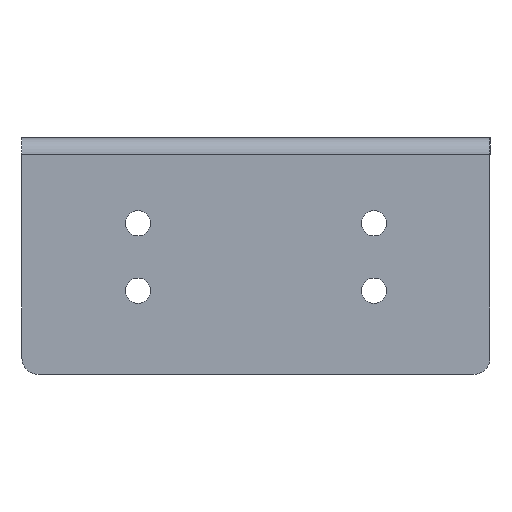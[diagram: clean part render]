
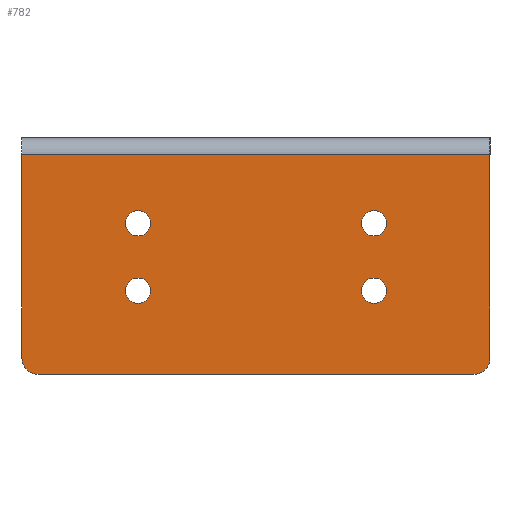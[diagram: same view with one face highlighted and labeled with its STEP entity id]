
A CAD part, left-side view. The second image highlights one B-rep face of the part: STEP entity #782.
In plain terms, the highlighted planar face has unit normal (-1, 0, 0).
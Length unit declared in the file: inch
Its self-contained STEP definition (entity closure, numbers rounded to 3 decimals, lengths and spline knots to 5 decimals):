
#9=DIRECTION('',(0.,0.,1.));
#10=VECTOR('',#9,1.51);
#11=CARTESIAN_POINT('',(0.,0.,-1.635));
#12=LINE('',#11,#10);
#183=DIRECTION('',(0.,0.,1.));
#184=VECTOR('',#183,1.51);
#185=CARTESIAN_POINT('',(0.,3.47,-1.635));
#186=LINE('',#185,#184);
#195=DIRECTION('',(0.,1.,0.));
#196=VECTOR('',#195,3.47);
#197=CARTESIAN_POINT('',(0.,0.,-0.125));
#198=LINE('',#197,#196);
#199=CARTESIAN_POINT('',(0.,0.86,-0.635));
#200=DIRECTION('',(1.,0.,0.));
#201=DIRECTION('',(0.,0.,-1.));
#202=AXIS2_PLACEMENT_3D('',#199,#200,#201);
#204=CARTESIAN_POINT('',(0.,0.86,-0.635));
#205=DIRECTION('',(1.,0.,0.));
#206=DIRECTION('',(0.,0.,1.));
#207=AXIS2_PLACEMENT_3D('',#204,#205,#206);
#209=CARTESIAN_POINT('',(0.,2.61,-0.635));
#210=DIRECTION('',(1.,0.,0.));
#211=DIRECTION('',(0.,0.,-1.));
#212=AXIS2_PLACEMENT_3D('',#209,#210,#211);
#214=CARTESIAN_POINT('',(0.,2.61,-0.635));
#215=DIRECTION('',(1.,0.,0.));
#216=DIRECTION('',(0.,0.,1.));
#217=AXIS2_PLACEMENT_3D('',#214,#215,#216);
#219=CARTESIAN_POINT('',(0.,2.61,-1.135));
#220=DIRECTION('',(1.,0.,0.));
#221=DIRECTION('',(0.,0.,-1.));
#222=AXIS2_PLACEMENT_3D('',#219,#220,#221);
#224=CARTESIAN_POINT('',(0.,2.61,-1.135));
#225=DIRECTION('',(1.,0.,0.));
#226=DIRECTION('',(0.,0.,1.));
#227=AXIS2_PLACEMENT_3D('',#224,#225,#226);
#229=CARTESIAN_POINT('',(0.,0.86,-1.135));
#230=DIRECTION('',(1.,0.,0.));
#231=DIRECTION('',(0.,0.,-1.));
#232=AXIS2_PLACEMENT_3D('',#229,#230,#231);
#234=CARTESIAN_POINT('',(0.,0.86,-1.135));
#235=DIRECTION('',(1.,0.,0.));
#236=DIRECTION('',(0.,0.,1.));
#237=AXIS2_PLACEMENT_3D('',#234,#235,#236);
#239=DIRECTION('',(0.,1.,0.));
#240=VECTOR('',#239,3.23);
#241=CARTESIAN_POINT('',(0.,0.12,-1.755));
#242=LINE('',#241,#240);
#332=CARTESIAN_POINT('',(0.,3.35,-1.635));
#333=DIRECTION('',(-1.,0.,0.));
#334=DIRECTION('',(0.,1.,0.));
#335=AXIS2_PLACEMENT_3D('',#332,#333,#334);
#345=CARTESIAN_POINT('',(0.,0.12,-1.635));
#346=DIRECTION('',(-1.,0.,0.));
#347=DIRECTION('',(0.,0.,-1.));
#348=AXIS2_PLACEMENT_3D('',#345,#346,#347);
#363=CARTESIAN_POINT('',(0.,0.,-0.125));
#365=VERTEX_POINT('',#363);
#367=CARTESIAN_POINT('',(0.,3.47,-0.125));
#369=VERTEX_POINT('',#367);
#379=CARTESIAN_POINT('',(0.,0.86,-0.7285));
#380=CARTESIAN_POINT('',(0.,0.86,-0.5415));
#381=VERTEX_POINT('',#379);
#382=VERTEX_POINT('',#380);
#383=CARTESIAN_POINT('',(0.,2.61,-0.7285));
#384=CARTESIAN_POINT('',(0.,2.61,-0.5415));
#385=VERTEX_POINT('',#383);
#386=VERTEX_POINT('',#384);
#427=CARTESIAN_POINT('',(0.,2.61,-1.2285));
#428=CARTESIAN_POINT('',(0.,2.61,-1.0415));
#429=VERTEX_POINT('',#427);
#430=VERTEX_POINT('',#428);
#431=CARTESIAN_POINT('',(0.,0.86,-1.2285));
#432=CARTESIAN_POINT('',(0.,0.86,-1.0415));
#433=VERTEX_POINT('',#431);
#434=VERTEX_POINT('',#432);
#444=CARTESIAN_POINT('',(0.,3.35,-1.755));
#446=VERTEX_POINT('',#444);
#449=CARTESIAN_POINT('',(0.,3.47,-1.635));
#450=VERTEX_POINT('',#449);
#459=CARTESIAN_POINT('',(0.,0.12,-1.755));
#461=VERTEX_POINT('',#459);
#463=CARTESIAN_POINT('',(0.,0.,-1.635));
#464=VERTEX_POINT('',#463);
#742=CARTESIAN_POINT('',(0.,0.,-1.755));
#743=DIRECTION('',(-1.,0.,0.));
#744=DIRECTION('',(0.,0.,1.));
#745=AXIS2_PLACEMENT_3D('',#742,#743,#744);
#746=PLANE('',#745);
#748=ORIENTED_EDGE('',*,*,#747,.F.);
#749=ORIENTED_EDGE('',*,*,#719,.T.);
#750=ORIENTED_EDGE('',*,*,#735,.F.);
#751=ORIENTED_EDGE('',*,*,#480,.F.);
#753=ORIENTED_EDGE('',*,*,#752,.F.);
#755=ORIENTED_EDGE('',*,*,#754,.T.);
#756=EDGE_LOOP('',(#748,#749,#750,#751,#753,#755));
#757=FACE_OUTER_BOUND('',#756,.F.);
#759=ORIENTED_EDGE('',*,*,#758,.F.);
#761=ORIENTED_EDGE('',*,*,#760,.F.);
#762=EDGE_LOOP('',(#759,#761));
#763=FACE_BOUND('',#762,.F.);
#765=ORIENTED_EDGE('',*,*,#764,.F.);
#767=ORIENTED_EDGE('',*,*,#766,.F.);
#768=EDGE_LOOP('',(#765,#767));
#769=FACE_BOUND('',#768,.F.);
#771=ORIENTED_EDGE('',*,*,#770,.F.);
#773=ORIENTED_EDGE('',*,*,#772,.F.);
#774=EDGE_LOOP('',(#771,#773));
#775=FACE_BOUND('',#774,.F.);
#777=ORIENTED_EDGE('',*,*,#776,.F.);
#779=ORIENTED_EDGE('',*,*,#778,.F.);
#780=EDGE_LOOP('',(#777,#779));
#781=FACE_BOUND('',#780,.F.);
#782=ADVANCED_FACE('',(#757,#763,#769,#775,#781),#746,.T.);
#203=CIRCLE('',#202,0.0935);
#208=CIRCLE('',#207,0.0935);
#213=CIRCLE('',#212,0.0935);
#218=CIRCLE('',#217,0.0935);
#223=CIRCLE('',#222,0.0935);
#228=CIRCLE('',#227,0.0935);
#233=CIRCLE('',#232,0.0935);
#238=CIRCLE('',#237,0.0935);
#336=CIRCLE('',#335,0.12);
#349=CIRCLE('',#348,0.12);
#480=EDGE_CURVE('',#464,#365,#12,.T.);
#719=EDGE_CURVE('',#450,#369,#186,.T.);
#735=EDGE_CURVE('',#365,#369,#198,.T.);
#747=EDGE_CURVE('',#450,#446,#336,.T.);
#752=EDGE_CURVE('',#461,#464,#349,.T.);
#754=EDGE_CURVE('',#461,#446,#242,.T.);
#758=EDGE_CURVE('',#385,#386,#213,.T.);
#760=EDGE_CURVE('',#386,#385,#218,.T.);
#764=EDGE_CURVE('',#429,#430,#223,.T.);
#766=EDGE_CURVE('',#430,#429,#228,.T.);
#770=EDGE_CURVE('',#433,#434,#233,.T.);
#772=EDGE_CURVE('',#434,#433,#238,.T.);
#776=EDGE_CURVE('',#381,#382,#203,.T.);
#778=EDGE_CURVE('',#382,#381,#208,.T.);
